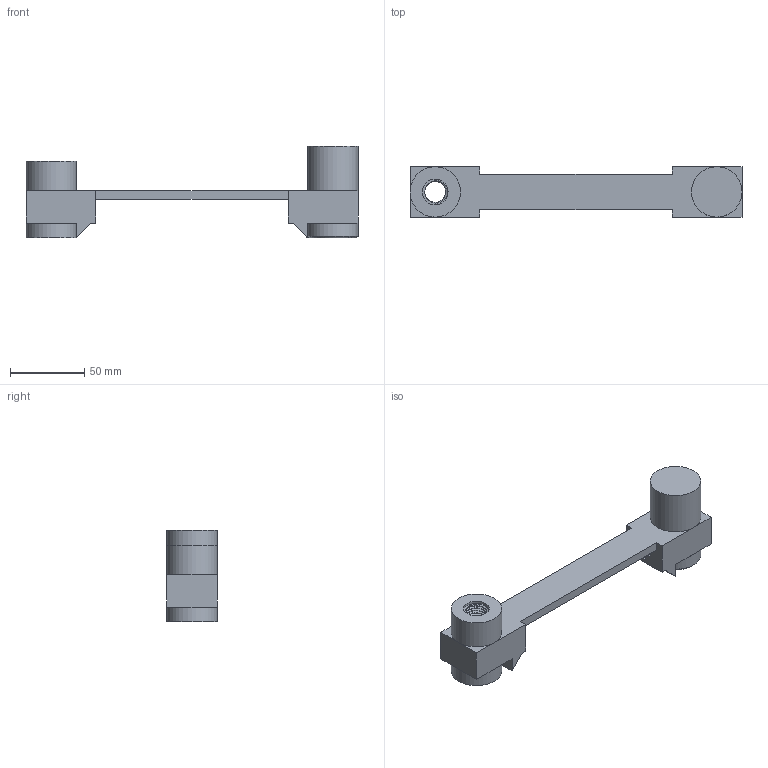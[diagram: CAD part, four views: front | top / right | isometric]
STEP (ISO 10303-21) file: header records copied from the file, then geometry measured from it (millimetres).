
FILE_DESCRIPTION(('Open CASCADE Model'),'2;1');
FILE_NAME('Open CASCADE Shape Model','2026-08-23T09:01:52',('Author'),( 'Open CASCADE'),'Open CASCADE STEP processor 7.9','Open CASCADE 7.9' ,'Unknown');
FILE_SCHEMA(('AUTOMOTIVE_DESIGN { 1 0 10303 214 1 1 1 1 }'));
Length unit declared in the file: millimetre
Products named in the file (2): =>[0:1:1:2]; COMPOUND
Assembly tree (1 placements, depth 2):
  =>[0:1:1:2]
    COMPOUND
Bounding box: 224 x 34 x 62 mm (x, y, z)
Volume: 121124.3 mm3; surface area: 36873.2 mm2
Topology: 1 solids, 1 shells, 98 faces, 258 edges, 162 vertices
Faces by surface type: plane 68, cylinder 23, cone 4, bspline 3
Full cylindrical faces by diameter (mm): 12.4 x1, 14.185 x9, 17.4 x1, 30 x1, 34 x3
Entity records: 11927 total; most frequent: CARTESIAN_POINT 7052, DIRECTION 787, ORIENTED_EDGE 522, PCURVE 516, DEFINITIONAL_REPRESENTATION 516, LINE 464, VECTOR 464, EDGE_CURVE 258
